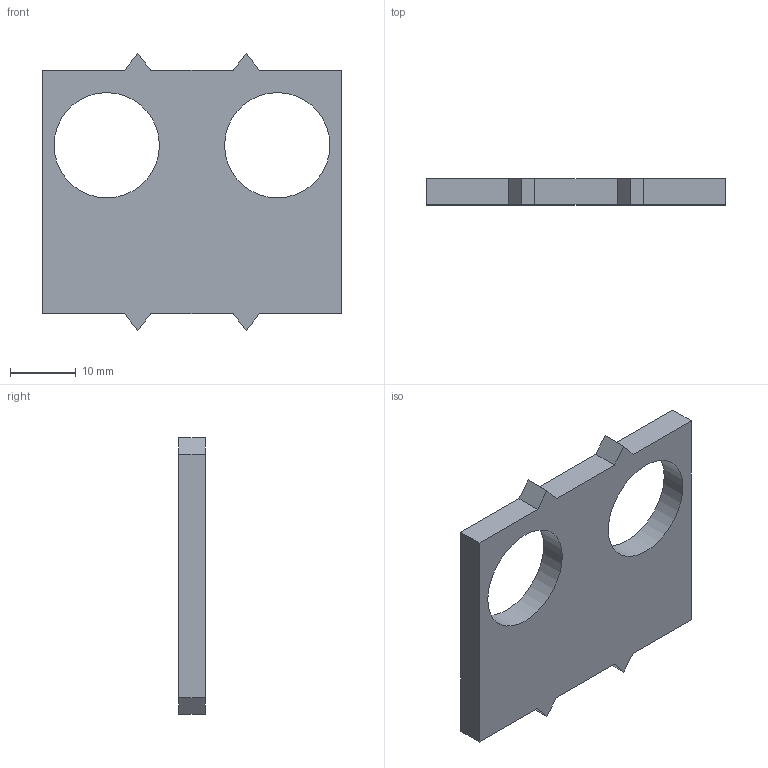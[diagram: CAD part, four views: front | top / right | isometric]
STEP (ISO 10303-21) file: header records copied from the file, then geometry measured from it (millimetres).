
FILE_DESCRIPTION(('FreeCAD Model'),'2;1');
FILE_NAME('Open CASCADE Shape Model','2024-06-26T11:40:24',('FreeCAD'),( 'FreeCAD'),'Open CASCADE STEP processor 7.6','FreeCAD','Unknown');
FILE_SCHEMA(('AUTOMOTIVE_DESIGN { 1 0 10303 214 1 1 1 1 }'));
Length unit declared in the file: millimetre
Products named in the file (1): Open CASCADE STEP translator 7.6 9
Bounding box: 45.5 x 4 x 42 mm (x, y, z)
Volume: 5205.5 mm3; surface area: 3703.3 mm2
Topology: 1 solids, 1 shells, 20 faces, 54 edges, 36 vertices
Faces by surface type: plane 18, cylinder 2
Full cylindrical faces by diameter (mm): 16 x2
Entity records: 640 total; most frequent: CARTESIAN_POINT 111, ORIENTED_EDGE 108, DIRECTION 100, EDGE_CURVE 54, LINE 50, VECTOR 50, VERTEX_POINT 36, AXIS2_PLACEMENT_3D 25
